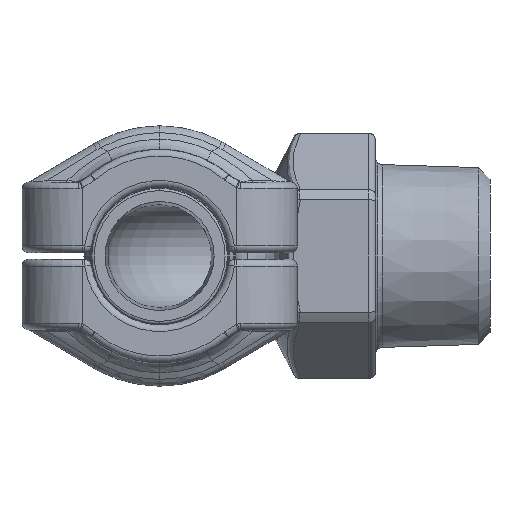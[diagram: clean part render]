
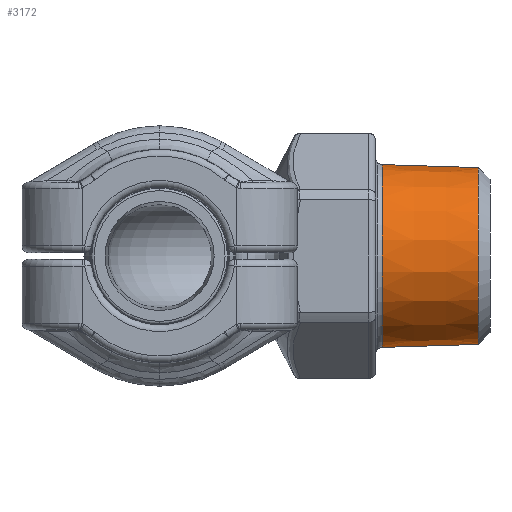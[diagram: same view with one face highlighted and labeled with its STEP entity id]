
A CAD part, front view. The second image highlights one B-rep face of the part: STEP entity #3172.
In plain terms, the highlighted conical face has half-angle 1.787 degrees and reference radius 13.393 mm.
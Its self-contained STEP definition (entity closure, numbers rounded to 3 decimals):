
#997=CARTESIAN_POINT('',(47.468,0.,0.));
#998=DIRECTION('',(1.,0.,0.));
#999=DIRECTION('',(0.,0.,1.));
#1000=AXIS2_PLACEMENT_3D('',#997,#998,#999);
#1020=DIRECTION('',(-1.,0.,-0.031));
#1021=VECTOR('',#1020,14.321);
#1022=CARTESIAN_POINT('',(47.468,0.,-13.169));
#1023=LINE('',#1022,#1021);
#1027=DIRECTION('',(-1.,0.,0.031));
#1028=VECTOR('',#1027,14.321);
#1029=CARTESIAN_POINT('',(47.468,0.,13.169));
#1030=LINE('',#1029,#1028);
#1034=CARTESIAN_POINT('',(33.154,0.,0.));
#1035=DIRECTION('',(-1.,0.,0.));
#1036=DIRECTION('',(0.,0.,-1.));
#1037=AXIS2_PLACEMENT_3D('',#1034,#1035,#1036);
#1900=CARTESIAN_POINT('',(33.154,0.,13.616));
#1902=VERTEX_POINT('',#1900);
#1906=CARTESIAN_POINT('',(33.154,0.,-13.616));
#1907=VERTEX_POINT('',#1906);
#1912=CARTESIAN_POINT('',(47.468,0.,13.169));
#1913=VERTEX_POINT('',#1912);
#1914=CARTESIAN_POINT('',(47.468,0.,-13.169));
#1915=VERTEX_POINT('',#1914);
#3160=CARTESIAN_POINT('',(40.311,0.,0.));
#3161=DIRECTION('',(-1.,0.,0.));
#3162=DIRECTION('',(0.,0.,1.));
#3163=AXIS2_PLACEMENT_3D('',#3160,#3161,#3162);
#3164=CONICAL_SURFACE('',#3163,13.393,1.787);
#3165=ORIENTED_EDGE('',*,*,#3125,.T.);
#3166=ORIENTED_EDGE('',*,*,#3155,.T.);
#3168=ORIENTED_EDGE('',*,*,#3167,.T.);
#3169=ORIENTED_EDGE('',*,*,#3151,.F.);
#3170=EDGE_LOOP('',(#3165,#3166,#3168,#3169));
#3171=FACE_OUTER_BOUND('',#3170,.F.);
#1001=CIRCLE('',#1000,13.169);
#1038=CIRCLE('',#1037,13.616);
#3125=EDGE_CURVE('',#1913,#1915,#1001,.T.);
#3151=EDGE_CURVE('',#1913,#1902,#1030,.T.);
#3155=EDGE_CURVE('',#1915,#1907,#1023,.T.);
#3167=EDGE_CURVE('',#1907,#1902,#1038,.T.);
#3172=ADVANCED_FACE('',(#3171),#3164,.T.);
